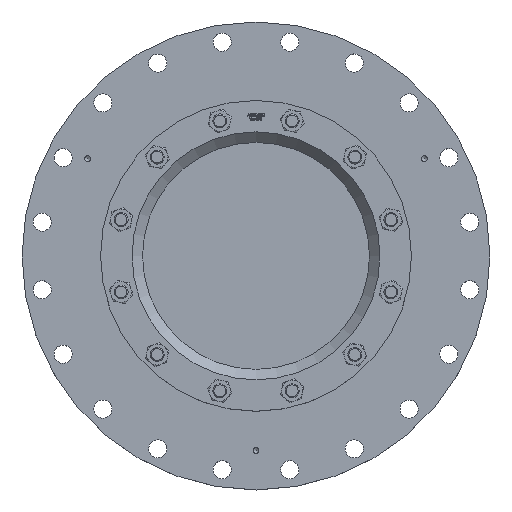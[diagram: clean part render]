
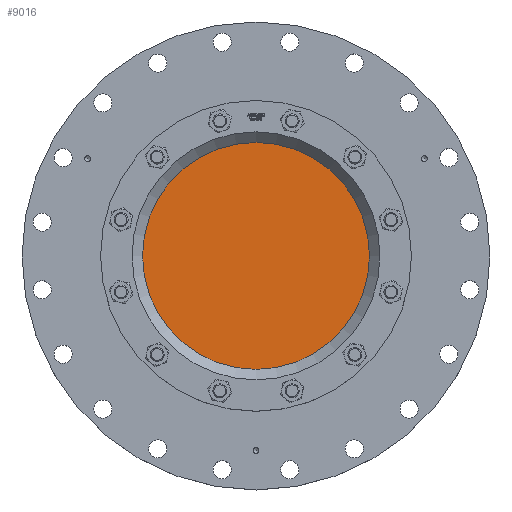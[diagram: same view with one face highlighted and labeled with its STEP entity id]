
A CAD part, top view. The second image highlights one B-rep face of the part: STEP entity #9016.
In plain terms, the highlighted planar face has unit normal (0, 0, 1).
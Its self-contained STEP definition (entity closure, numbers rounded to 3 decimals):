
#2039=FACE_OUTER_BOUND('',#2608,.T.);
#2608=EDGE_LOOP('',(#5706));
#3333=CIRCLE('',#9589,162.5);
#3591=VERTEX_POINT('',#12223);
#4431=EDGE_CURVE('',#3591,#3591,#3333,.T.);
#5706=ORIENTED_EDGE('',*,*,#4431,.F.);
#8236=PLANE('',#9588);
#9016=ADVANCED_FACE('',(#2039),#8236,.F.);
#9588=AXIS2_PLACEMENT_3D('',#12222,#10311,#10312);
#9589=AXIS2_PLACEMENT_3D('',#12224,#10313,#10314);
#10311=DIRECTION('center_axis',(0.,0.,-1.));
#10312=DIRECTION('ref_axis',(-1.,0.,0.));
#10313=DIRECTION('center_axis',(0.,0.,-1.));
#10314=DIRECTION('ref_axis',(-1.,0.,0.));
#12222=CARTESIAN_POINT('Origin',(0.,0.,115.));
#12223=CARTESIAN_POINT('',(162.5,0.,115.));
#12224=CARTESIAN_POINT('Origin',(0.,0.,115.));
